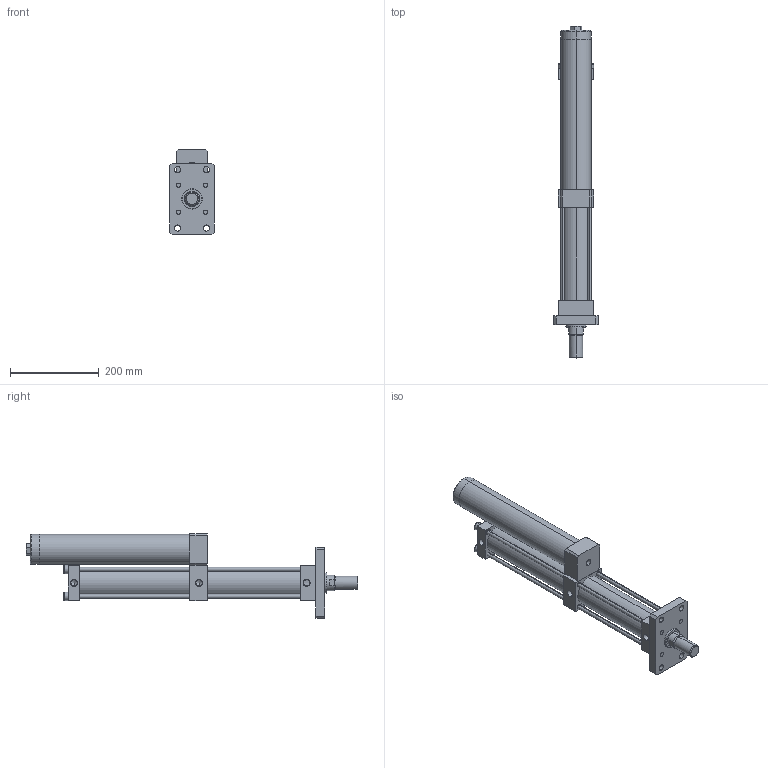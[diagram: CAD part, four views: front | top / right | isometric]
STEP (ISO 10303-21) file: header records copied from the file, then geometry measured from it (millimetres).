
FILE_DESCRIPTION (( 'STEP AP203' ), '1' );
FILE_NAME ('MPT-63-150-20-1T.STEP', '2016-03-17T09:40:58', ( 'WIN' ), ( '' ), 'SwSTEP 2.0', 'SolidWorks 2014', '' );
FILE_SCHEMA (( 'CONFIG_CONTROL_DESIGN' ));
Length unit declared in the file: millimetre
Products named in the file (1): MPT-63-150-20-1T
Bounding box: 100 x 750 x 191 mm (x, y, z)
Volume: 2861932.3 mm3; surface area: 512715.4 mm2
Topology: 15 solids, 15 shells, 252 faces, 573 edges, 360 vertices
Faces by surface type: plane 132, cylinder 84, cone 24, torus 12
Entity records: 7243 total; most frequent: DIRECTION 1306, CARTESIAN_POINT 1279, ORIENTED_EDGE 1134, EDGE_CURVE 567, AXIS2_PLACEMENT_3D 497, VERTEX_POINT 360, LINE 312, VECTOR 312
